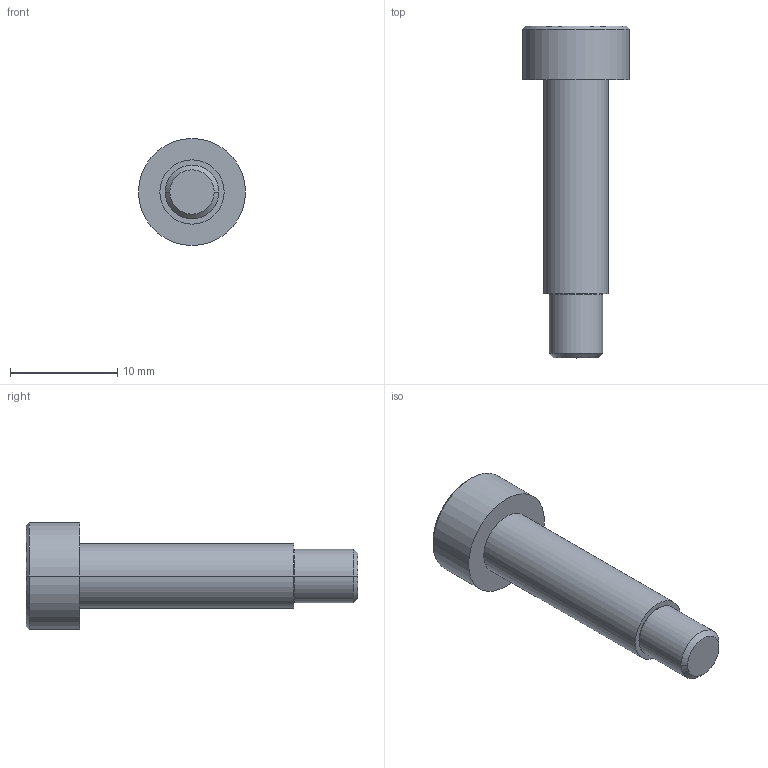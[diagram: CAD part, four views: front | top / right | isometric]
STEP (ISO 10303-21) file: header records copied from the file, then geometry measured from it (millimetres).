
FILE_DESCRIPTION(/* description */ ('VariCAD 2010-1.04 AP-203'),/* implementation_level */ '2;1');
FILE_NAME(/* name */ '0353-97-42',/* time_stamp */ '2010-01-26T23:20:16-07:00',/* author */ (''),/* organization */ (''),/* preprocessor_version */ 'ST-DEVELOPER v12',/* originating_system */ 'VariCAD 2010-1.04; kernel version (20090520)',/* authorisation */ '');
FILE_SCHEMA (('CONFIG_CONTROL_DESIGN'));
Length unit declared in the file: millimetre
Products named in the file (1): Part
Bounding box: 10 x 31 x 10 mm (x, y, z)
Volume: 1054.1 mm3; surface area: 965.4 mm2
Topology: 2 solids, 2 shells, 38 faces, 86 edges, 53 vertices
Faces by surface type: cone 14, cylinder 12, plane 12
Entity records: 1152 total; most frequent: CARTESIAN_POINT 258, DIRECTION 184, ORIENTED_EDGE 168, EDGE_CURVE 84, AXIS2_PLACEMENT_3D 75, VERTEX_POINT 53, EDGE_LOOP 43, ADVANCED_FACE 38
